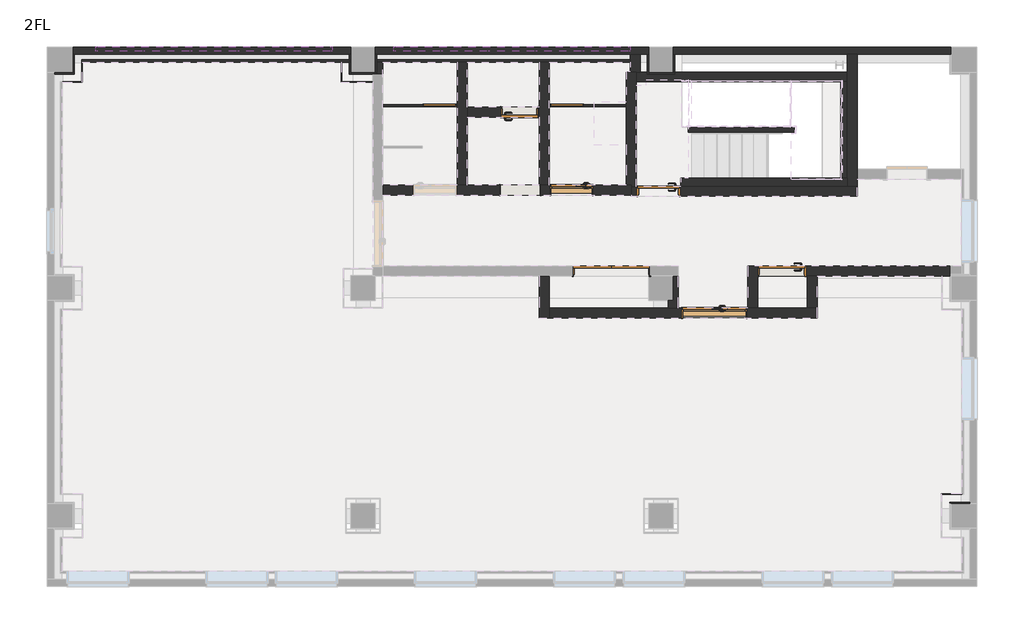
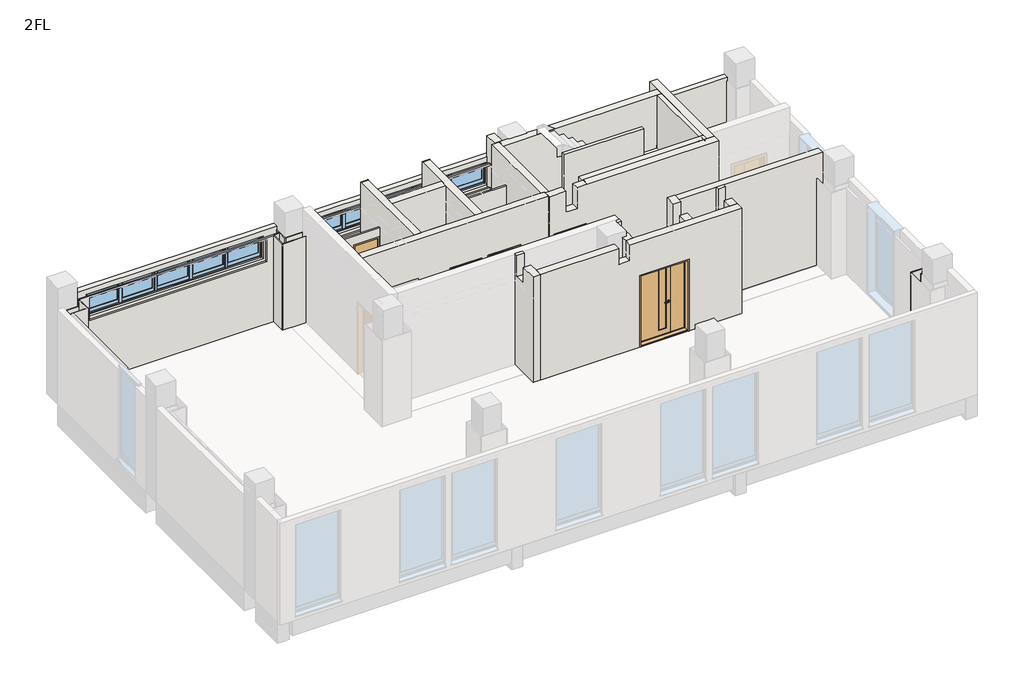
# One storey, part 2 of 4: 38 walls, 9 doors, 2 windows.
"""IFC4 building model written with IfcOpenShell, lengths in millimetres."""

from ifc_helpers import new_model, si_unit, frame, origin, place, context, project, spatial, polyline, outline, extrude, faceted_brep, transform, mapped, element, save
from components import door_e94faea5, door_4b055558, door_d7f882ca, door_5dd87f21, door_bff3f04c, door_a8025d8c, d600x2000_af21914f, d600x2000_ad2d4883, sf1_800x2000_fe7aab56, window_ed3df4e0

model = new_model("IFC4")

# Units and contexts
model_context = context("Model", 3, world=origin())
ifc_project = project(units=[si_unit("LENGTHUNIT", "METRE", prefix="MILLI")], contexts=[model_context])

# Site, building, storey
site = spatial("IfcSite", under=ifc_project)
building = spatial("IfcBuilding", under=site)
storey = spatial("IfcBuildingStorey", under=building, Name="2FL", Elevation=3400.0)

# Doors
placement = place(None, origin())
door_shape = door_e94faea5(model_context)
element("IfcDoor", 1, ObjectType="A1 片開 フラッシュ_A1枠 : SD11_H2000W800", at=placement, inside=storey, context=model_context, shape_type="MappedRepresentation", body=[
    mapped(door_shape, transform((12040.0, 6540.0, 3400.0), x_axis=(1.0, 0.0, 0.0), y_axis=(0.0, 1.0, 0.0), z_axis=(0.0, 0.0, 1.0))),
])
door_2_shape = door_4b055558(model_context)
element("IfcDoor", 2, ObjectType="A1 片開 フラッシュ_A1枠 : SD10_H2000W700", at=placement, inside=storey, context=model_context, shape_type="MappedRepresentation", body=[
    mapped(door_2_shape, transform((9240.0, 8140.0, 3400.0), x_axis=(-1.0, 0.0, 0.0), y_axis=(0.0, -1.0, 0.0), z_axis=(0.0, 0.0, 1.0))),
])
door_3_shape = door_d7f882ca(model_context)
element("IfcDoor", 3, ObjectType="A1 片開 フラッシュ_A1枠 : SD13_H2000W900", at=placement, inside=storey, context=model_context, shape_type="MappedRepresentation", body=[
    mapped(door_3_shape, transform((14525.0, 4930.0, 3400.0), x_axis=(1.0, 0.0, 0.0), y_axis=(0.0, 1.0, 0.0), z_axis=(0.0, 0.0, 1.0))),
])
door_4_shape = door_5dd87f21(model_context)
element("IfcDoor", 4, ObjectType="B1 両開 フラッシュ_A1枠 : SD12-H2000W1500 2", at=placement, inside=storey, context=model_context, shape_type="MappedRepresentation", body=[
    mapped(door_4_shape, transform((11090.0, 4930.0, 3400.0), x_axis=(1.0, 0.0, 0.0), y_axis=(0.0, 1.0, 0.0), z_axis=(0.0, 0.0, 1.0))),
])
door_5_shape = door_bff3f04c(model_context)
element("IfcDoor", 5, ObjectType="140_片開扉_スリットガラリ付 : SD9_H2000W800", at=placement, inside=storey, context=model_context, shape_type="MappedRepresentation", body=[
    mapped(door_5_shape, transform((10290.0, 6565.5, 3400.0), x_axis=(-1.0, 0.0, 0.0), y_axis=(0.0, -1.0, 0.0), z_axis=(0.0, 0.0, 1.0))),
])
door_6_shape = door_a8025d8c(model_context)
element("IfcDoor", 6, ObjectType="C_親子扉_スリット窓付_パネル : SD8_W1250XH2000", at=placement, inside=storey, context=model_context, shape_type="MappedRepresentation", body=[
    mapped(door_6_shape, transform((13165.0, 4090.0, 3400.0), x_axis=(-1.0, 0.0, 0.0), y_axis=(0.0, -1.0, 0.0), z_axis=(0.0, 0.0, 1.0))),
])
d600x2000_shape = d600x2000_af21914f(model_context)
element("IfcDoor", 7, ObjectType="T1 点検口 : D600X2000", at=placement, inside=storey, context=model_context, shape_type="MappedRepresentation", body=[
    mapped(d600x2000_shape, transform((7632.5, 8270.0, 3400.0), x_axis=(-1.0, 0.0, 0.0), y_axis=(0.0, -1.0, 0.0), z_axis=(0.0, 0.0, 1.0))),
])
d600x2000_2_shape = d600x2000_ad2d4883(model_context)
element("IfcDoor", 8, ObjectType="T1 点検口 : D600X2000", at=placement, inside=storey, context=model_context, shape_type="MappedRepresentation", body=[
    mapped(d600x2000_2_shape, transform((10197.5, 8270.1, 3400.0), x_axis=(1.0, 0.0, 0.0), y_axis=(0.0, 1.0, 0.0), z_axis=(0.0, 0.0, 1.0))),
])
sf1_800x2000_shape = sf1_800x2000_fe7aab56(model_context)
element("IfcDoor", 9, ObjectType="三方枠 : SF1-800X2000", at=placement, inside=storey, context=model_context, shape_type="MappedRepresentation", body=[
    mapped(sf1_800x2000_shape, transform((9257.5, 6565.5, 3400.0), x_axis=(-1.0, 0.0, 0.0), y_axis=(0.0, -1.0, 0.0), z_axis=(0.0, 0.0, 1.0))),
])

# Walls
element("IfcWall", 10, ObjectType="•_RC120+押出法ポリスチレンフォーム1種 t25", at=placement, inside=storey, context=model_context, shape_type="Brep", body=[
    faceted_brep([(250.0, 9450.0, 3250.0), (250.0, 9450.0, 5950.0), (5840.0, 9450.0, 5950.0), (5840.0, 9450.0, 3250.0), (5470.0, 9450.0, 5130.0), (5470.0, 9450.0, 5800.0), (710.0, 9450.0, 5800.0), (710.0, 9450.0, 5130.0), (250.0, 9305.0, 5950.0), (250.0, 9305.0, 5850.0), (250.0, 9305.0, 3250.0), (275.0, 9305.0, 3250.0), (5814.9999427, 9305.0, 3250.0), (5840.0, 9305.0, 3250.0), (5840.0, 9305.0, 5850.0), (5840.0, 9305.0, 5950.0), (5470.0, 9305.0, 5800.0), (5470.0, 9305.0, 5165.0), (710.0, 9305.0, 5165.0), (710.0, 9305.0, 5800.0), (5470.0, 9370.0, 5130.0), (5470.0, 9370.0, 5165.0), (710.0, 9370.0, 5165.0), (710.0, 9370.0, 5130.0)], [[[0, 1, 2, 3], [4, 5, 6, 7]], [[8, 9, 10, 11, 12, 13, 14, 15], [16, 17, 18, 19]], [[10, 0, 3, 13, 12, 11]], [[1, 8, 15, 2]], [[4, 20, 21, 17, 16, 5]], [[22, 23, 7, 6, 19, 18]], [[21, 22, 18, 17]], [[5, 16, 19, 6]], [[20, 4, 7, 23]], [[21, 20, 23, 22]], [[3, 2, 15, 14, 13]], [[10, 9, 8, 1, 0]]]),
    faceted_brep([(11840.0, 9450.0, 5950.0), (11840.0, 9450.0, 3250.0), (6340.0, 9450.0, 3250.0), (6340.0, 9450.0, 5950.0), (11470.0, 9450.0, 5130.0), (11470.0, 9450.0, 5800.0), (6710.0, 9450.0, 5800.0), (6710.0, 9450.0, 5130.0), (11840.0, 9305.0, 3250.0), (11840.0, 9305.0, 5850.0), (11840.0, 9305.0, 5950.0), (6340.0, 9305.0, 5950.0), (6340.0, 9305.0, 5850.0), (6340.0, 9305.0, 3250.0), (6364.9999033, 9305.0, 3250.0), (11470.0, 9305.0, 3250.0), (11670.0, 9305.0, 3250.0), (11814.9999426, 9305.0, 3250.0), (11470.0, 9305.0, 5800.0), (11470.0, 9305.0, 5165.0), (6710.0, 9305.0, 5165.0), (6710.0, 9305.0, 5800.0), (11470.0, 9370.0, 5130.0), (11470.0, 9370.0, 5165.0), (6710.0, 9370.0, 5165.0), (6710.0, 9370.0, 5130.0)], [[[0, 1, 2, 3], [4, 5, 6, 7]], [[8, 9, 10, 11, 12, 13, 14, 15, 16, 17], [18, 19, 20, 21]], [[1, 8, 17, 16, 15, 14, 13, 2]], [[10, 0, 3, 11]], [[10, 9, 8, 1, 0]], [[3, 2, 13, 12, 11]], [[22, 23, 19, 18, 5, 4]], [[24, 25, 7, 6, 21, 20]], [[23, 24, 20, 19]], [[5, 18, 21, 6]], [[22, 4, 7, 25]], [[23, 22, 25, 24]]]),
    faceted_brep([(17930.0000284, 9450.0, 5950.0), (17930.0000284, 9450.0, 3250.0), (12340.0, 9450.0, 3250.0), (12340.0, 9450.0, 5950.0), (17930.0000284, 9305.0, 5950.0), (12340.0, 9305.0, 5950.0), (12340.0, 9305.0, 5850.0), (12340.0, 9305.0, 3250.0), (12364.9999035, 9305.0, 3250.0), (15840.0, 9305.0, 3250.0), (16040.0, 9305.0, 3250.0), (17905.0000284, 9305.0, 3250.0), (17930.0000284, 9305.0, 3250.0), (17930.0000284, 9305.0, 5850.0)], [[[0, 1, 2, 3]], [[4, 5, 6, 7, 8, 9, 10, 11, 12, 13]], [[12, 11, 10, 9, 8, 7, 2, 1]], [[5, 4, 0, 3]], [[1, 0, 4, 13, 12]], [[7, 6, 5, 3, 2]]]),
])
element("IfcWall", 11, ObjectType="•RC30+12.5", at=placement, inside=storey, context=model_context, shape_type="Brep", body=[
    faceted_brep([(426.0, 9147.500003, 3250.0), (438.5, 9147.500003, 3250.0), (5651.5, 9147.500003, 3250.0), (5664.0, 9147.500003, 3250.0), (5814.9999427, 9147.500003, 3250.0), (5814.9999427, 9147.500003, 5850.0), (5664.0, 9147.500003, 5850.0), (5651.5, 9147.500003, 5850.0), (438.5, 9147.500003, 5850.0), (426.0, 9147.500003, 5850.0), (710.0, 9147.500003, 5800.0), (5470.0, 9147.500003, 5800.0), (5470.0, 9147.500003, 5165.0), (710.0, 9147.500003, 5165.0), (5814.9999427, 9190.000003, 3250.0), (426.0, 9190.000003, 3250.0), (426.0, 9190.000003, 5850.0), (5814.9999427, 9190.000003, 5850.0), (5470.0, 9190.000003, 5800.0), (710.0, 9190.000003, 5800.0), (710.0, 9190.000003, 5165.0), (5470.0, 9190.000003, 5165.0)], [[[0, 1, 2, 3, 4, 5, 6, 7, 8, 9], [10, 11, 12, 13]], [[14, 15, 16, 17], [18, 19, 20, 21]], [[4, 3, 2, 1, 0, 15, 14]], [[9, 8, 7, 6, 5, 17, 16]], [[0, 9, 16, 15]], [[10, 19, 18, 11]], [[12, 21, 20, 13]], [[19, 10, 13, 20]], [[11, 18, 21, 12]], [[5, 4, 14, 17]]]),
])
element("IfcWall", 12, ObjectType="•RC30+12.5", at=placement, inside=storey, context=model_context, shape_type="Brep", body=[
    faceted_brep([(6365.0, 9147.500003, 5850.0), (6365.0, 9147.500003, 3250.0), (6490.0, 9147.500003, 3250.0), (7990.0, 9147.500003, 3250.0), (8190.0, 9147.500003, 3250.0), (9640.0, 9147.500003, 3250.0), (9840.0, 9147.500003, 3250.0), (11470.0, 9147.500003, 3250.0), (11470.0, 9147.500003, 5165.0), (6710.0, 9147.500003, 5165.0), (6710.0, 9147.500003, 5800.0), (11470.0, 9147.500003, 5800.0), (11470.0, 9147.500003, 5850.0), (6490.0, 9147.500003, 5850.0), (6365.0, 9190.000003, 3250.0), (6365.0, 9190.000003, 5850.0), (11470.0, 9190.000003, 5850.0), (11470.0, 9190.000003, 5800.0), (6710.0, 9190.000003, 5800.0), (6710.0, 9190.000003, 5165.0), (11470.0, 9190.000003, 5165.0), (11470.0, 9190.000003, 3250.0)], [[[0, 1, 2, 3, 4, 5, 6, 7, 8, 9, 10, 11, 12, 13]], [[14, 15, 16, 17, 18, 19, 20, 21]], [[1, 14, 21, 7, 6, 5, 4, 3, 2]], [[15, 0, 13, 12, 16]], [[1, 0, 15, 14]], [[10, 18, 17, 11]], [[19, 9, 8, 20]], [[18, 10, 9, 19]], [[8, 7, 21, 20]], [[12, 11, 17, 16]]]),
])
element("IfcWall", 13, ObjectType="•t=25mm", at=placement, inside=storey, context=model_context, shape_type="Brep", body=[
    faceted_brep([(-125.0, 8905.000056, 3250.0), (275.0, 8905.000056, 3250.0), (275.0, 8905.000056, 5850.0), (-125.0, 8905.000056, 5850.0), (-125.0, 8930.000056, 3250.0), (-125.0, 8930.000056, 5850.0), (250.0, 8930.000056, 5850.0), (275.0, 8930.000056, 5850.0), (275.0, 8930.000056, 3250.0), (250.0, 8930.000056, 3250.0)], [[[0, 1, 2, 3]], [[4, 5, 6, 7, 8, 9]], [[1, 0, 4, 9, 8]], [[3, 2, 7, 6, 5]], [[0, 3, 5, 4]], [[2, 1, 8, 7]]]),
])
element("IfcWall", 14, ObjectType="•t=25mm", at=placement, inside=storey, context=model_context, shape_type="SweptSolid", body=[
    extrude(outline(polyline([(275.0, 9305.0), (275.0, 8930.000056), (250.0, 8930.000056), (250.0, 9305.0), (275.0, 9305.0)])), frame((0.0, 0.0, 3250.0), z_axis=(0.0, 0.0, 1.0), x_axis=(1.0, 0.0, 0.0)), (0.0, 0.0, 1.0), 2600.0),
])
element("IfcWall", 15, ObjectType="•t=25mm", at=placement, inside=storey, context=model_context, shape_type="Brep", body=[
    faceted_brep([(5814.9999427, 9305.0, 3250.0), (5814.9999427, 9190.000003, 3250.0), (5814.9999427, 9147.500003, 3250.0), (5814.9999427, 8905.0000823, 3250.0), (5814.9999427, 8905.0000823, 5850.0), (5814.9999427, 9147.500003, 5850.0), (5814.9999427, 9190.000003, 5850.0), (5814.9999427, 9305.0, 5850.0), (5839.9999427, 9305.0, 3250.0), (5839.9999427, 9305.0, 5850.0), (5839.9999427, 8930.0000823, 5850.0), (5839.9999427, 8905.0000823, 5850.0), (5839.9999427, 8905.0000823, 3250.0), (5839.9999427, 8930.0000823, 3250.0)], [[[0, 1, 2, 3, 4, 5, 6, 7]], [[8, 9, 10, 11, 12, 13]], [[3, 2, 1, 0, 8, 13, 12]], [[7, 6, 5, 4, 11, 10, 9]], [[4, 3, 12, 11]], [[0, 7, 9, 8]]]),
])
element("IfcWall", 16, ObjectType="•t=25mm", at=placement, inside=storey, context=model_context, shape_type="Brep", body=[
    faceted_brep([(6364.9999033, 8905.0000823, 5850.0), (5839.9999427, 8905.0000823, 5850.0), (5839.9999427, 8905.0000823, 3250.0), (5890.0, 8905.0000823, 3250.0), (5890.0, 8905.0000823, 3390.0), (6290.0, 8905.0000823, 3390.0), (6364.9999033, 8905.0000823, 3390.0), (5839.9999427, 8930.0000823, 5850.0), (6339.9999033, 8930.0000823, 5850.0), (6364.9999033, 8930.0000823, 5850.0), (6364.9999033, 8930.0000823, 3390.0), (6340.0, 8930.0000823, 3390.0), (5890.0, 8930.0000823, 3390.0), (5890.0, 8930.0000823, 3250.0), (5839.9999427, 8930.0000823, 3250.0)], [[[0, 1, 2, 3, 4, 5, 6]], [[7, 8, 9, 10, 11, 12, 13, 14]], [[2, 14, 13, 3]], [[1, 0, 9, 8, 7]], [[2, 1, 7, 14]], [[9, 0, 6, 10]], [[4, 12, 11, 10, 6, 5]], [[12, 4, 3, 13]]]),
])
element("IfcWall", 17, ObjectType="•t=25mm", at=placement, inside=storey, context=model_context, shape_type="SweptSolid", body=[
    extrude(outline(polyline([(8930.0000823, 5850.0), (9305.0, 5850.0), (9305.0, 3250.0), (9130.0, 3250.0), (9130.0, 3390.0), (8930.0000823, 3390.0), (8930.0000823, 5850.0)])), frame((6339.9999033, 0.0, 0.0), z_axis=(1.0, 0.0, 0.0), x_axis=(0.0, 1.0, 0.0)), (0.0, 0.0, 1.0), 25.0),
])
element("IfcWall", 18, ObjectType="•t=25mm", at=placement, inside=storey, context=model_context, shape_type="Brep", body=[
    faceted_brep([(11814.9999426, 8905.0000823, 5850.0), (11814.9999426, 9305.0, 5850.0), (11814.9999426, 9305.0, 3250.0), (11814.9999426, 9130.0, 3250.0), (11814.9999426, 9130.0, 3390.0), (11814.9999426, 8905.0000823, 3390.0), (11839.9999426, 9305.0, 5850.0), (11839.9999426, 8930.0000823, 5850.0), (11839.9999426, 8905.0000823, 5850.0), (11839.9999426, 8905.0000823, 3390.0), (11839.9999426, 8930.0, 3390.0), (11839.9999426, 9130.0, 3390.0), (11839.9999426, 9130.0, 3250.0), (11839.9999426, 9305.0, 3250.0)], [[[0, 1, 2, 3, 4, 5]], [[6, 7, 8, 9, 10, 11, 12, 13]], [[2, 13, 12, 3]], [[1, 0, 8, 7, 6]], [[2, 1, 6, 13]], [[8, 0, 5, 9]], [[4, 11, 10, 9, 5]], [[11, 4, 3, 12]]]),
])
element("IfcWall", 19, ObjectType="•t=25mm", at=placement, inside=storey, context=model_context, shape_type="Brep", body=[
    faceted_brep([(12364.9999035, 8905.0000823, 5850.0), (11839.9999426, 8905.0000823, 5850.0), (11839.9999426, 8905.0000823, 3390.0), (12364.9999035, 8905.0000823, 3390.0), (11839.9999426, 8930.0000823, 5850.0), (12339.9999035, 8930.0000823, 5850.0), (12364.9999035, 8930.0000823, 5850.0), (12364.9999035, 8930.0000823, 3390.0), (12340.0, 8930.0000823, 3390.0), (11839.9999426, 8930.0000823, 3390.0)], [[[0, 1, 2, 3]], [[4, 5, 6, 7, 8, 9]], [[1, 0, 6, 5, 4]], [[1, 4, 9, 2]], [[6, 0, 3, 7]], [[3, 2, 9, 8, 7]]]),
])
element("IfcWall", 20, ObjectType="•t=25mm", at=placement, inside=storey, context=model_context, shape_type="Brep", body=[
    faceted_brep([(12364.9999035, 8930.0000823, 3250.0), (12364.9999035, 9305.0, 3250.0), (12364.9999035, 9305.0, 3390.0), (12364.9999035, 9305.0, 5850.0), (12364.9999035, 8930.0000823, 5850.0), (12364.9999035, 8930.0000823, 3390.0), (12339.9999035, 9305.0, 3250.0), (12339.9999035, 8930.0000823, 3250.0), (12339.9999035, 8930.0000823, 3390.0), (12339.9999035, 8930.0000823, 5850.0), (12339.9999035, 9305.0, 5850.0)], [[[0, 1, 2, 3, 4, 5]], [[6, 7, 8, 9, 10]], [[1, 0, 7, 6]], [[4, 3, 10, 9]], [[4, 9, 8, 7, 0, 5]], [[1, 6, 10, 3, 2]]]),
])
element("IfcWall", 21, ObjectType="•t=25mm", at=placement, inside=storey, context=model_context, shape_type="Brep", body=[
    faceted_brep([(18305.0, 274.9999009, 3250.0), (17904.999971, 274.9999009, 3250.0), (17904.999971, 274.9999009, 5850.0), (18305.0, 274.9999009, 5850.0), (18305.0, 249.9999009, 3250.0), (18305.0, 249.9999009, 5850.0), (17929.999971, 249.9999009, 5850.0), (17904.999971, 249.9999009, 5850.0), (17904.999971, 249.9999009, 3250.0), (17929.999971, 249.9999009, 3250.0)], [[[0, 1, 2, 3]], [[4, 5, 6, 7, 8, 9]], [[1, 0, 4, 9, 8]], [[3, 2, 7, 6, 5]], [[2, 1, 8, 7]], [[0, 3, 5, 4]]]),
])
element("IfcWall", 22, ObjectType="•PB12.5", at=placement, inside=storey, context=model_context, shape_type="Brep", body=[
    faceted_brep([(18147.4999993, 442.499689, 3250.0), (17731.5010313, 442.499689, 3250.0), (17731.5010313, 442.499689, 5850.0), (18147.4999993, 442.499689, 5850.0), (18147.4999993, 429.999689, 3250.0), (18147.4999993, 429.999689, 5850.0), (17744.0010313, 429.999689, 5850.0), (17731.5010313, 429.999689, 5850.0), (17731.5010313, 429.999689, 3250.0), (17744.0010313, 429.999689, 3250.0)], [[[0, 1, 2, 3]], [[4, 5, 6, 7, 8, 9]], [[1, 0, 4, 9, 8]], [[3, 2, 7, 6, 5]], [[0, 3, 5, 4]], [[2, 1, 8, 7]]]),
])
element("IfcWall", 23, ObjectType="•PB12.5", at=placement, inside=storey, context=model_context, shape_type="Brep", body=[
    faceted_brep([(32.4999974, 8741.5, 3250.0), (438.5, 8741.5, 3250.0), (438.5, 8741.5, 5850.0), (32.4999974, 8741.5, 5850.0), (32.4999974, 8754.0, 3250.0), (32.4999974, 8754.0, 5850.0), (426.0, 8754.0, 5850.0), (438.5, 8754.0, 5850.0), (438.5, 8754.0, 3250.0), (426.0, 8754.0, 3250.0)], [[[0, 1, 2, 3]], [[4, 5, 6, 7, 8, 9]], [[1, 0, 4, 9, 8]], [[3, 2, 7, 6, 5]], [[0, 3, 5, 4]], [[2, 1, 8, 7]]]),
])
element("IfcWall", 24, ObjectType="•PB12.5", at=placement, inside=storey, context=model_context, shape_type="SweptSolid", body=[
    extrude(outline(polyline([(438.5, 9147.500003), (438.5, 8754.0), (426.0, 8754.0), (426.0, 9147.500003), (438.5, 9147.500003)])), frame((0.0, 0.0, 3250.0), z_axis=(0.0, 0.0, 1.0), x_axis=(1.0, 0.0, 0.0)), (0.0, 0.0, 1.0), 2600.0),
])
element("IfcWall", 25, ObjectType="•PB12.5", at=placement, inside=storey, context=model_context, shape_type="Brep", body=[
    faceted_brep([(5651.5, 9147.500003, 3250.0), (5651.5, 8741.5, 3250.0), (5651.5, 8741.5, 5850.0), (5651.5, 9147.500003, 5850.0), (5664.0, 9147.500003, 3250.0), (5664.0, 9147.500003, 5850.0), (5664.0, 8754.0, 5850.0), (5664.0, 8741.5, 5850.0), (5664.0, 8741.5, 3250.0), (5664.0, 8754.0, 3250.0)], [[[0, 1, 2, 3]], [[4, 5, 6, 7, 8, 9]], [[1, 0, 4, 9, 8]], [[3, 2, 7, 6, 5]], [[0, 3, 5, 4]], [[2, 1, 8, 7]]]),
])
element("IfcWall", 26, ObjectType="•PB12.5", at=placement, inside=storey, context=model_context, shape_type="SweptSolid", body=[
    extrude(outline(polyline([(5850.0, 6290.0), (5850.0, 5664.0), (3250.0, 5664.0), (3250.0, 5890.0), (3390.0, 5890.0), (3390.0, 6290.0), (5850.0, 6290.0)])), frame((0.0, 8741.5, 0.0), z_axis=(0.0, 1.0, 0.0), x_axis=(0.0, 0.0, 1.0)), (0.0, 0.0, 1.0), 12.5),
])
element("IfcWall", 27, ObjectType="•RC125", at=placement, inside=storey, context=model_context, shape_type="SweptSolid", body=[
    extrude(outline(polyline([(8905.0000823, 5850.0), (9147.500003, 5850.0), (9147.500003, 3250.0), (9130.0, 3250.0), (9130.0, 3390.0), (8905.0000823, 3390.0), (8905.0000823, 5850.0)])), frame((6365.0, 0.0, 0.0), z_axis=(1.0, 0.0, 0.0), x_axis=(0.0, 1.0, 0.0)), (0.0, 0.0, 1.0), 125.0),
])
element("IfcWall", 28, ObjectType="•RC200", at=placement, inside=storey, context=model_context, shape_type="Brep", body=[
    faceted_brep([(12240.0, 4340.0, 3250.0), (12240.0, 4190.0, 3250.0), (12240.0, 4190.0, 5950.0), (12240.0, 4190.0, 6400.0), (12240.0, 4340.0, 6400.0), (12440.0, 4830.0, 6550.0), (12440.0, 4740.0, 6550.0), (12440.0, 4740.0, 5950.0), (12440.0, 4440.0, 5950.0), (12440.0, 4440.0, 6400.0), (12440.0, 4190.0, 6400.0), (12440.0, 4190.0, 3250.0), (12440.0, 4390.0, 3250.0), (12440.0, 4390.0, 3390.0), (12440.0, 4830.0, 3390.0), (12440.0, 4830.0, 6540.0), (12340.0, 4340.0, 3250.0), (12340.0, 4390.0, 3250.0), (12340.0, 4830.0, 6550.0), (12340.0, 4740.0, 6550.0), (12340.0, 4830.0, 3390.0), (12340.0, 4830.0, 6540.0), (12340.0, 4340.0, 6400.0), (12340.0, 4390.0, 3390.0), (12340.0, 4440.0, 6400.0), (12340.0, 4440.0, 5950.0), (12340.0, 4740.0, 5950.0)], [[[0, 1, 2, 3, 4]], [[5, 6, 7, 8, 9, 10, 11, 12, 13, 14, 15]], [[11, 1, 0, 16, 17, 12]], [[5, 18, 19, 6]], [[18, 5, 15, 14, 20, 21]], [[1, 11, 10, 3, 2]], [[16, 0, 4, 22]], [[19, 18, 21, 20, 23, 17, 16, 22, 24, 25, 26]], [[26, 7, 6, 19]], [[8, 25, 24, 9]], [[7, 26, 25, 8]], [[4, 3, 10, 9, 24, 22]], [[13, 23, 20, 14]], [[23, 13, 12, 17]]]),
])
element("IfcWall", 29, ObjectType="•RC200", at=placement, inside=storey, context=model_context, shape_type="Brep", body=[
    faceted_brep([(9640.0, 4740.0, 6550.0), (9640.0, 4830.0, 6550.0), (9640.0, 4830.0, 3390.0), (9640.0, 4390.0, 3390.0), (9640.0, 4390.0, 3250.0), (9640.0, 3990.0, 3250.0), (9640.0, 3990.0, 6400.0), (9640.0, 4440.0, 6400.0), (9640.0, 4440.0, 5950.0), (9640.0, 4740.0, 5950.0), (9840.0, 4830.0, 6550.0), (9840.0, 4740.0, 6550.0), (9840.0, 4740.0, 5950.0), (9840.0, 4440.0, 5950.0), (9840.0, 4440.0, 6400.0), (9840.0, 4190.0, 6400.0), (9840.0, 3990.0, 6400.0), (9840.0, 3990.0, 3250.0), (9840.0, 4190.0, 3250.0), (9840.0, 4390.0, 3250.0), (9840.0, 4390.0, 3390.0), (9840.0, 4830.0, 3390.0)], [[[0, 1, 2, 3, 4, 5, 6, 7, 8, 9]], [[10, 11, 12, 13, 14, 15, 16, 17, 18, 19, 20, 21]], [[17, 5, 4, 19, 18]], [[10, 1, 0, 11]], [[1, 10, 21, 2]], [[5, 17, 16, 6]], [[9, 12, 11, 0]], [[13, 8, 7, 14]], [[12, 9, 8, 13]], [[20, 3, 2, 21]], [[3, 20, 19, 4]], [[7, 6, 16, 15, 14]]]),
])
element("IfcWall", 30, ObjectType="•RC200", at=placement, inside=storey, context=model_context, shape_type="Brep", body=[
    faceted_brep([(9840.0, 3990.0, 3250.0), (15240.0, 3990.0, 3250.0), (15240.0, 3990.0, 6400.0), (12240.0, 3990.0, 6400.0), (12240.0, 3990.0, 5950.0), (11940.0, 3990.0, 5950.0), (11940.0, 3990.0, 6400.0), (9840.0, 3990.0, 6400.0), (13830.0, 3990.0, 5440.0), (13830.0, 3990.0, 3385.0), (12500.0, 3990.0, 3385.0), (12500.0, 3990.0, 5440.0), (15240.0, 4190.0, 3250.0), (15040.0, 4190.0, 3250.0), (14040.0, 4190.0, 3250.0), (13840.0, 4190.0, 3250.0), (12440.0, 4190.0, 3250.0), (12240.0, 4190.0, 3250.0), (9840.0, 4190.0, 3250.0), (9840.0, 4190.0, 6400.0), (11940.0, 4190.0, 6400.0), (11940.0, 4190.0, 5950.0), (12240.0, 4190.0, 5950.0), (12240.0, 4190.0, 6400.0), (12440.0, 4190.0, 6400.0), (13840.0, 4190.0, 6400.0), (14040.0, 4190.0, 6400.0), (15040.0, 4190.0, 6400.0), (15240.0, 4190.0, 6400.0), (13830.0, 4190.0, 3385.0), (13830.0, 4190.0, 5440.0), (12500.0, 4190.0, 5440.0), (12500.0, 4190.0, 3385.0)], [[[0, 1, 2, 3, 4, 5, 6, 7], [8, 9, 10, 11]], [[12, 13, 14, 15, 16, 17, 18, 19, 20, 21, 22, 23, 24, 25, 26, 27, 28], [29, 30, 31, 32]], [[1, 0, 18, 17, 16, 15, 14, 13, 12]], [[18, 0, 7, 19]], [[1, 12, 28, 2]], [[5, 21, 20, 6]], [[22, 4, 3, 23]], [[21, 5, 4, 22]], [[3, 2, 28, 27, 26, 25, 24, 23]], [[7, 6, 20, 19]], [[9, 8, 30, 29]], [[10, 9, 29, 32]], [[11, 10, 32, 31]], [[8, 11, 31, 30]]]),
])
element("IfcWall", 31, ObjectType="•RC200", at=placement, inside=storey, context=model_context, shape_type="SweptSolid", body=[
    extrude(outline(polyline([(4740.0, 6550.0), (4830.0, 6550.0), (4830.0, 3390.0), (4390.0, 3390.0), (4390.0, 3250.0), (4190.0, 3250.0), (4190.0, 6400.0), (4440.0, 6400.0), (4440.0, 5950.0), (4740.0, 5950.0), (4740.0, 6550.0)])), frame((15040.0, 0.0, 0.0), z_axis=(1.0, 0.0, 0.0), x_axis=(0.0, 1.0, 0.0)), (0.0, 0.0, 1.0), 200.0),
])
element("IfcWall", 32, ObjectType="•RC200", at=placement, inside=storey, context=model_context, shape_type="Brep", body=[
    faceted_brep([(14040.0, 5030.0, 6550.0), (14040.0, 4740.0, 6550.0), (14040.0, 4740.0, 5950.0), (14040.0, 4440.0, 5950.0), (14040.0, 4440.0, 6400.0), (14040.0, 4190.0, 6400.0), (14040.0, 4190.0, 3250.0), (14040.0, 4390.0, 3250.0), (14040.0, 4390.0, 3390.0), (14040.0, 4830.0, 3390.0), (14040.0, 5030.0, 3390.0), (14040.0, 5030.0, 6540.0), (13840.0, 4740.0, 6550.0), (13840.0, 5030.0, 6550.0), (13840.0, 5030.0, 3390.0), (13840.0, 4390.0, 3390.0), (13840.0, 4390.0, 3250.0), (13840.0, 4190.0, 3250.0), (13840.0, 4190.0, 6400.0), (13840.0, 4440.0, 6400.0), (13840.0, 4440.0, 5950.0), (13840.0, 4740.0, 5950.0)], [[[0, 1, 2, 3, 4, 5, 6, 7, 8, 9, 10, 11]], [[12, 13, 14, 15, 16, 17, 18, 19, 20, 21]], [[6, 17, 16, 7]], [[0, 13, 12, 1]], [[17, 6, 5, 18]], [[13, 0, 11, 10, 14]], [[21, 2, 1, 12]], [[3, 20, 19, 4]], [[2, 21, 20, 3]], [[8, 15, 14, 10, 9]], [[15, 8, 7, 16]], [[5, 4, 19, 18]]]),
])
element("IfcWall", 33, ObjectType="•RC200", at=placement, inside=storey, context=model_context, shape_type="Brep", body=[
    faceted_brep([(17905.0, 5030.0, 3390.0), (14040.0, 5030.0, 3390.0), (14040.0, 5030.0, 6540.0), (17905.0, 5030.0, 6540.0), (15002.5, 5030.0, 3400.0), (15002.5, 5030.0, 5427.5), (14047.5, 5030.0, 5427.5), (14047.5, 5030.0, 3400.0), (14040.0, 4830.0, 3390.0), (15040.0, 4830.0, 3390.0), (15240.0, 4830.0, 3390.0), (17905.0, 4830.0, 3390.0), (17905.0, 4830.0, 6540.0), (14040.0, 4830.0, 6540.0), (15002.5, 4830.0, 5427.5), (15002.5, 4830.0, 3400.0), (14047.5, 4830.0, 3400.0), (14047.5, 4830.0, 5427.5)], [[[0, 1, 2, 3], [4, 5, 6, 7]], [[8, 9, 10, 11, 12, 13], [14, 15, 16, 17]], [[11, 0, 3, 12]], [[1, 8, 13, 2]], [[15, 14, 5, 4]], [[16, 15, 4, 7]], [[17, 16, 7, 6]], [[14, 17, 6, 5]], [[1, 0, 11, 10, 9, 8]], [[3, 2, 13, 12]]]),
])
element("IfcWall", 34, ObjectType="•RC200", at=placement, inside=storey, context=model_context, shape_type="Brep", body=[
    faceted_brep([(9850.0, 6465.5, 5440.0), (10730.0, 6465.5, 5440.0), (10730.0, 6465.5, 3390.0), (11490.0, 6465.5, 3390.0), (11490.0, 6465.5, 6540.0), (6490.0, 6465.5, 6540.0), (6490.0, 6465.5, 3390.0), (7100.0, 6465.5, 3390.0), (7100.0, 6465.5, 5440.0), (7980.0, 6465.5, 5440.0), (7980.0, 6465.5, 3390.0), (9850.0, 6465.5, 3390.0), (8842.5, 6465.5, 3400.0), (8842.5, 6465.5, 5425.0), (9672.5, 6465.5, 5425.0), (9672.5, 6465.5, 3400.0), (10730.0, 6665.5, 5440.0), (9850.0, 6665.5, 5440.0), (9850.0, 6665.5, 3390.0), (9840.0, 6665.5, 3390.0), (9640.0, 6665.5, 3390.0), (8190.0, 6665.5, 3390.0), (7990.0, 6665.5, 3390.0), (7980.0, 6665.5, 3390.0), (7980.0, 6665.5, 5440.0), (7100.0, 6665.5, 5440.0), (7100.0, 6665.5, 3390.0), (6490.0, 6665.5, 3390.0), (6490.0, 6665.5, 6540.0), (7990.0, 6665.5, 6540.0), (8190.0, 6665.5, 6540.0), (9640.0, 6665.5, 6540.0), (9840.0, 6665.5, 6540.0), (11390.0, 6665.5, 6540.0), (11490.0, 6665.5, 6540.0), (11490.0, 6665.5, 3390.0), (11390.0, 6665.5, 3390.0), (10730.0, 6665.5, 3390.0), (8842.5, 6665.5, 5425.0), (8842.5, 6665.5, 3400.0), (9672.5, 6665.5, 3400.0), (9672.5, 6665.5, 5425.0), (11490.0, 6640.0, 6540.0), (11490.0, 6640.0, 3390.0)], [[[0, 1, 2, 3, 4, 5, 6, 7, 8, 9, 10, 11], [12, 13, 14, 15]], [[16, 17, 18, 19, 20, 21, 22, 23, 24, 25, 26, 27, 28, 29, 30, 31, 32, 33, 34, 35, 36, 37], [38, 39, 40, 41]], [[34, 42, 4, 3, 43, 35]], [[5, 28, 27, 6]], [[1, 16, 37, 2]], [[17, 0, 11, 18]], [[1, 0, 17, 16]], [[25, 8, 7, 26]], [[9, 24, 23, 10]], [[25, 24, 9, 8]], [[39, 38, 13, 12]], [[40, 39, 12, 15]], [[41, 40, 15, 14]], [[38, 41, 14, 13]], [[5, 4, 42, 34, 33, 32, 31, 30, 29, 28]], [[3, 2, 37, 36, 35, 43]], [[7, 6, 27, 26]], [[11, 10, 23, 22, 21, 20, 19, 18]]]),
])
element("IfcWall", 35, ObjectType="•RC200", at=placement, inside=storey, context=model_context, shape_type="Brep", body=[
    faceted_brep([(12467.5, 6640.0, 3400.0), (12467.5, 6640.0, 5427.5), (11612.5, 6640.0, 5427.5), (11612.5, 6640.0, 3400.0), (11625.0, 6640.0, 3400.0), (11625.0, 6640.0, 3390.0), (11590.0, 6640.0, 3390.0), (11490.0, 6640.0, 3390.0), (11490.0, 6640.0, 6540.0), (11590.0, 6640.0, 6540.0), (11940.0, 6640.0, 6540.0), (11940.0, 6640.0, 5950.0), (12240.0, 6640.0, 5950.0), (12240.0, 6640.0, 6540.0), (12512.5, 6640.0, 6540.0), (12512.5, 6640.0, 6550.0), (15840.0, 6640.0, 6550.0), (16040.0, 6640.0, 6550.0), (16040.0, 6640.0, 6540.0), (16040.0, 6640.0, 3390.0), (16040.0, 6640.0, 3250.0), (15840.0, 6640.0, 3250.0), (12512.5, 6640.0, 3250.0), (12512.5, 6640.0, 3390.0), (12490.0, 6640.0, 3390.0), (12455.0, 6640.0, 3390.0), (12455.0, 6640.0, 3400.0), (12467.5, 6440.0, 5427.5), (12467.5, 6440.0, 3400.0), (12455.0, 6440.0, 3400.0), (12455.0, 6440.0, 3390.0), (12512.5, 6440.0, 3390.0), (12512.5, 6440.0, 3250.0), (16040.0, 6440.0, 3250.0), (16040.0, 6440.0, 3390.0), (16040.0, 6440.0, 3400.0), (16040.0, 6440.0, 6540.0), (16040.0, 6440.0, 6550.0), (12512.5, 6440.0, 6550.0), (12512.5, 6440.0, 6540.0), (12240.0, 6440.0, 6540.0), (12240.0, 6440.0, 5950.0), (11940.0, 6440.0, 5950.0), (11940.0, 6440.0, 6540.0), (11490.0, 6440.0, 6540.0), (11490.0, 6440.0, 3400.0), (11490.0, 6440.0, 3390.0), (11625.0, 6440.0, 3390.0), (11625.0, 6440.0, 3400.0), (11612.5, 6440.0, 3400.0), (11612.5, 6440.0, 5427.5), (11490.0, 6465.5, 6540.0), (11490.0, 6465.5, 3390.0)], [[[0, 1, 2, 3, 4, 5, 6, 7, 8, 9, 10, 11, 12, 13, 14, 15, 16, 17, 18, 19, 20, 21, 22, 23, 24, 25, 26]], [[27, 28, 29, 30, 31, 32, 33, 34, 35, 36, 37, 38, 39, 40, 41, 42, 43, 44, 45, 46, 47, 48, 49, 50]], [[20, 33, 32, 22, 21]], [[44, 51, 8, 7, 52, 46, 45]], [[37, 17, 16, 15, 38]], [[17, 37, 36, 35, 34, 33, 20, 19, 18]], [[28, 27, 1, 0]], [[28, 0, 26, 29]], [[3, 49, 48, 4]], [[50, 49, 3, 2]], [[27, 50, 2, 1]], [[42, 11, 10, 43]], [[12, 41, 40, 13]], [[11, 42, 41, 12]], [[39, 14, 13, 40]], [[10, 9, 8, 51, 44, 43]], [[14, 39, 38, 15]], [[23, 31, 30, 25, 24]], [[46, 52, 7, 6, 5, 47]], [[31, 23, 22, 32]], [[26, 25, 30, 29]], [[5, 4, 48, 47]]]),
])
element("IfcWall", 36, ObjectType="•RC200", at=placement, inside=storey, context=model_context, shape_type="Brep", body=[
    faceted_brep([(7990.0, 9147.500003, 3250.0), (7990.0, 9130.0, 3250.0), (7990.0, 9130.0, 3390.0), (7990.0, 6665.5, 3390.0), (7990.0, 6665.5, 6540.0), (7990.0, 9130.0, 6540.0), (7990.0, 9130.0, 6550.0), (7990.0, 9147.500003, 6550.0), (8190.0, 9130.0, 3250.0), (8190.0, 9147.500003, 3250.0), (8190.0, 9147.500003, 6550.0), (8190.0, 9130.0, 6550.0), (8190.0, 9130.0, 6540.0), (8190.0, 8240.0, 6540.0), (8190.0, 8040.0, 6540.0), (8190.0, 6665.5, 6540.0), (8190.0, 6665.5, 3390.0), (8190.0, 8040.0, 3390.0), (8190.0, 8240.0, 3390.0), (8190.0, 9130.0, 3390.0)], [[[0, 1, 2, 3, 4, 5, 6, 7]], [[8, 9, 10, 11, 12, 13, 14, 15, 16, 17, 18, 19]], [[0, 9, 8, 1]], [[10, 7, 6, 11]], [[3, 16, 15, 4]], [[3, 2, 19, 18, 17, 16]], [[12, 5, 4, 15, 14, 13]], [[19, 2, 1, 8]], [[5, 12, 11, 6]], [[7, 10, 9, 0]]]),
])
element("IfcWall", 37, ObjectType="•RC200", at=placement, inside=storey, context=model_context, shape_type="Brep", body=[
    faceted_brep([(9640.0, 6665.5, 6540.0), (9640.0, 8040.0, 6540.0), (9640.0, 8240.0, 6540.0), (9640.0, 9130.0, 6540.0), (9640.0, 9130.0, 6550.0), (9640.0, 9147.500003, 6550.0), (9640.0, 9147.500003, 3250.0), (9640.0, 9130.0, 3250.0), (9640.0, 9130.0, 3390.0), (9640.0, 8240.0, 3390.0), (9640.0, 8040.0, 3390.0), (9640.0, 6665.5, 3390.0), (9840.0, 9130.0, 6540.0), (9840.0, 6665.5, 6540.0), (9840.0, 6665.5, 3390.0), (9840.0, 9130.0, 3390.0), (9840.0, 9130.0, 3250.0), (9840.0, 9147.500003, 3250.0), (9840.0, 9147.500003, 6550.0), (9840.0, 9130.0, 6550.0)], [[[0, 1, 2, 3, 4, 5, 6, 7, 8, 9, 10, 11]], [[12, 13, 14, 15, 16, 17, 18, 19]], [[6, 17, 16, 7]], [[18, 5, 4, 19]], [[13, 0, 11, 14]], [[3, 2, 1, 0, 13, 12]], [[8, 15, 14, 11, 10, 9]], [[15, 8, 7, 16]], [[3, 12, 19, 4]], [[5, 18, 17, 6]]]),
])
element("IfcWall", 38, ObjectType="•RC200", at=placement, inside=storey, context=model_context, shape_type="Brep", body=[
    faceted_brep([(11590.0, 8947.5, 6540.0), (11590.0, 6640.0, 6540.0), (11590.0, 6640.0, 3390.0), (11590.0, 8747.5, 3390.0), (11590.0, 8947.5, 3390.0), (11390.0, 6665.5, 6540.0), (11390.0, 8947.5, 6540.0), (11390.0, 8947.5, 3390.0), (11390.0, 6665.5, 3390.0), (11470.0, 8947.5, 3390.0), (11490.0, 6640.0, 6540.0), (11490.0, 6640.0, 3390.0), (11490.0, 6665.5, 6540.0), (11490.0, 6665.5, 3390.0)], [[[0, 1, 2, 3, 4]], [[5, 6, 7, 8]], [[6, 0, 4, 9, 7]], [[1, 10, 11, 2]], [[10, 12, 13, 11]], [[12, 5, 8, 13]], [[1, 0, 6, 5, 12, 10]], [[4, 3, 2, 11, 13, 8, 7, 9]]]),
])
element("IfcWall", 39, ObjectType="•RC200", at=placement, inside=storey, context=model_context, shape_type="Brep", body=[
    faceted_brep([(15840.0, 8747.5, 6550.0), (15710.0, 8747.5, 6550.0), (12512.5, 8747.5, 6550.0), (11590.0, 8747.5, 6550.0), (11590.0, 8747.5, 3390.0), (12512.5, 8747.5, 3390.0), (12512.5, 8747.5, 3250.0), (15710.0, 8747.5, 3250.0), (15840.0, 8747.5, 3250.0), (11590.0, 8947.5, 6550.0), (11670.0, 8947.5, 6550.0), (11840.0, 8947.5, 6550.0), (11840.0, 8947.5, 3390.0), (11670.0, 8947.5, 3390.0), (11590.0, 8947.5, 3390.0), (11590.0, 8947.5, 6540.0), (12340.0, 8947.5, 6550.0), (12360.0, 8947.5, 6550.0), (12364.9999035, 8947.5, 6550.0), (12512.5, 8947.5, 6550.0), (15840.0, 8947.5, 6550.0), (15840.0, 8947.5, 3250.0), (12512.5, 8947.5, 3250.0), (12512.5, 8947.5, 3390.0), (12364.9999035, 8947.5, 3390.0), (12364.9999035, 8947.5, 3250.0), (12340.0, 8947.5, 3250.0), (12340.0, 8930.0, 3250.0), (12364.9999035, 8930.0, 3250.0), (12340.0, 8930.0, 6550.0), (11840.0, 8930.0, 6550.0), (12340.0, 8930.0, 3390.0), (11840.0, 8930.0, 3390.0), (12364.9999035, 8930.0, 3390.0)], [[[0, 1, 2, 3, 4, 5, 6, 7, 8]], [[9, 10, 11, 12, 13, 14, 15]], [[16, 17, 18, 19, 20, 21, 22, 23, 24, 25, 26]], [[21, 8, 7, 6, 22]], [[27, 26, 25, 28]], [[3, 2, 1, 0, 20, 19, 18, 17, 16, 29, 30, 11, 10, 9]], [[30, 29, 31, 32]], [[11, 30, 32, 12]], [[0, 8, 21, 20]], [[3, 9, 15, 14, 4]], [[31, 33, 24, 23, 5, 4, 14, 13, 12, 32]], [[5, 23, 22, 6]], [[33, 31, 27, 28]], [[24, 33, 28, 25]], [[16, 26, 27, 31, 29]]]),
])
element("IfcWall", 40, ObjectType="•RC200", at=placement, inside=storey, context=model_context, shape_type="Brep", body=[
    faceted_brep([(15840.0, 9305.0, 3250.0), (15840.0, 8947.5, 3250.0), (15840.0, 8747.5, 3250.0), (15840.0, 6640.0, 3250.0), (15840.0, 6640.0, 6550.0), (15840.0, 8747.5, 6550.0), (15840.0, 8947.5, 6550.0), (15840.0, 9305.0, 6550.0), (16040.0, 9305.0, 3250.0), (16040.0, 9305.0, 6550.0), (16040.0, 6990.0, 6550.0), (16040.0, 6790.0, 6550.0), (16040.0, 6640.0, 6550.0), (16040.0, 6640.0, 3250.0)], [[[0, 1, 2, 3, 4, 5, 6, 7]], [[8, 9, 10, 11, 12, 13]], [[3, 2, 1, 0, 8, 13]], [[7, 6, 5, 4, 12, 11, 10, 9]], [[4, 3, 13, 12]], [[0, 7, 9, 8]]]),
])
element("IfcWall", 41, ObjectType="•RC164.5", at=placement, inside=storey, context=model_context, shape_type="Brep", body=[
    faceted_brep([(12490.0, 6640.0, 3250.0), (15840.0, 6640.0, 3250.0), (15840.0, 6640.0, 6550.0), (12490.0, 6640.0, 6550.0), (12490.0, 6804.5, 3250.0), (12490.0, 6804.5, 6550.0), (15710.0, 6804.5, 6550.0), (15840.0, 6804.5, 6550.0), (15840.0, 6804.5, 3250.0), (15710.0, 6804.5, 3250.0)], [[[0, 1, 2, 3]], [[4, 5, 6, 7, 8, 9]], [[1, 0, 4, 9, 8]], [[3, 2, 7, 6, 5]], [[0, 3, 5, 4]], [[2, 1, 8, 7]]]),
])
element("IfcWall", 42, ObjectType="•RC130", at=placement, inside=storey, context=model_context, shape_type="SweptSolid", body=[
    extrude(outline(polyline([(15710.0, 6804.5), (15710.0, 8747.5), (15840.0, 8747.5), (15840.0, 6804.5), (15710.0, 6804.5)])), frame((0.0, 0.0, 3250.0), z_axis=(0.0, 0.0, 1.0), x_axis=(1.0, 0.0, 0.0)), (0.0, 0.0, 1.0), 3300.0),
])
element("IfcWall", 43, ObjectType="•RC200", at=placement, inside=storey, context=model_context, shape_type="Brep", body=[
    faceted_brep([(11470.0, 8947.5, 6550.0), (11470.0, 9305.0, 6550.0), (11470.0, 9305.0, 5800.0), (11470.0, 9305.0, 5165.0), (11470.0, 9305.0, 3250.0), (11470.0, 9190.000003, 3250.0), (11470.0, 9147.500003, 3250.0), (11470.0, 9130.0, 3250.0), (11470.0, 9130.0, 3390.0), (11470.0, 8947.5, 3390.0), (11670.0, 9305.0, 6550.0), (11670.0, 8947.5, 6550.0), (11670.0, 8947.5, 3390.0), (11670.0, 9130.0, 3390.0), (11670.0, 9130.0, 3250.0), (11670.0, 9305.0, 3250.0), (11590.0, 8947.5, 6550.0), (11590.0, 8947.5, 3390.0)], [[[0, 1, 2, 3, 4, 5, 6, 7, 8, 9]], [[10, 11, 12, 13, 14, 15]], [[4, 15, 14, 7, 6, 5]], [[11, 16, 0, 9, 17, 12]], [[1, 0, 16, 11, 10]], [[4, 3, 2, 1, 10, 15]], [[8, 13, 12, 17, 9]], [[13, 8, 7, 14]]]),
])
element("IfcWall", 44, ObjectType="•RC90", at=placement, inside=storey, context=model_context, shape_type="SweptSolid", body=[
    extrude(outline(polyline([(12642.5000144, 7820.0000124), (14770.0000002, 7820.0000077), (14770.0, 7730.0000077), (12642.5000142, 7730.0000124), (12642.5000144, 7820.0000124)])), frame((0.0, 0.0, 3250.0), z_axis=(0.0, 0.0, 1.0), x_axis=(1.0, 0.0, 0.0)), (0.0, 0.0, 1.0), 3300.0),
])
element("IfcWall", 45, ObjectType="•RC200", at=placement, inside=storey, context=model_context, shape_type="Brep", body=[
    faceted_brep([(9640.0, 8040.0, 6540.0), (8190.0, 8040.0, 6540.0), (8190.0, 8040.0, 3400.0), (8190.0, 8040.0, 3390.0), (9640.0, 8040.0, 3390.0), (9640.0, 8040.0, 3400.0), (8862.5, 8040.0, 3400.0), (8862.5, 8040.0, 5427.5), (9617.5, 8040.0, 5427.5), (9617.5, 8040.0, 3400.0), (8190.0, 8240.0, 6540.0), (9640.0, 8240.0, 6540.0), (9640.0, 8240.0, 3400.0), (9640.0, 8240.0, 3390.0), (8190.0, 8240.0, 3390.0), (8190.0, 8240.0, 3400.0), (8862.5, 8240.0, 5427.5), (8862.5, 8240.0, 3400.0), (9617.5, 8240.0, 3400.0), (9617.5, 8240.0, 5427.5)], [[[0, 1, 2, 3, 4, 5], [6, 7, 8, 9]], [[10, 11, 12, 13, 14, 15], [16, 17, 18, 19]], [[1, 10, 15, 14, 3, 2]], [[11, 0, 5, 4, 13, 12]], [[16, 7, 6, 17]], [[17, 6, 9, 18]], [[7, 16, 19, 8]], [[8, 19, 18, 9]], [[1, 0, 11, 10]], [[4, 3, 14, 13]]]),
])
element("IfcWall", 46, ObjectType="•t=40mm", at=placement, inside=storey, context=model_context, shape_type="SweptSolid", body=[
    extrude(outline(polyline([(3400.0, 6490.0), (3400.0, 7990.0), (5800.0, 7990.0), (5800.0, 6490.0), (3400.0, 6490.0)]), holes=[polyline([(5540.0, 7972.5), (3460.0, 7972.5), (3460.0, 7292.5), (5540.0, 7292.5), (5540.0, 7972.5)])]), frame((0.0, 8250.0, 0.0), z_axis=(0.0, 1.0, 0.0), x_axis=(0.0, 0.0, 1.0)), (0.0, 0.0, 1.0), 40.0),
])
element("IfcWall", 47, ObjectType="•t=40mm", at=placement, inside=storey, context=model_context, shape_type="SweptSolid", body=[
    extrude(outline(polyline([(3400.0, 11390.0), (5800.0, 11390.0), (5800.0, 9840.0), (3400.0, 9840.0), (3400.0, 11390.0)]), holes=[polyline([(3460.0, 9857.5), (5540.0, 9857.5), (5540.0, 10537.5), (3460.0, 10537.5), (3460.0, 9857.5)])]), frame((0.0, 8250.1, 0.0), z_axis=(0.0, 1.0, 0.0), x_axis=(0.0, 0.0, 1.0)), (0.0, 0.0, 1.0), 40.0),
])

# Windows
window_shape = window_ed3df4e0(model_context)
element("IfcWindow", 48, ObjectType="B_嵌殺窓1段5列 : AW4_H560W4680", at=placement, inside=storey, context=model_context, shape_type="MappedRepresentation", body=[
    mapped(window_shape, transform((3090.0, 9377.5, 4300.0), x_axis=(1.0, 0.0, 0.0), y_axis=(0.0, 1.0, 0.0), z_axis=(0.0, 0.0, 1.0))),
])
element("IfcWindow", 49, ObjectType="B_嵌殺窓1段5列 : AW4_H560W4680", at=placement, inside=storey, context=model_context, shape_type="MappedRepresentation", body=[
    mapped(window_shape, transform((9090.0, 9377.5, 4300.0), x_axis=(1.0, 0.0, 0.0), y_axis=(0.0, 1.0, 0.0), z_axis=(0.0, 0.0, 1.0))),
])

save(model, "model.ifc")
